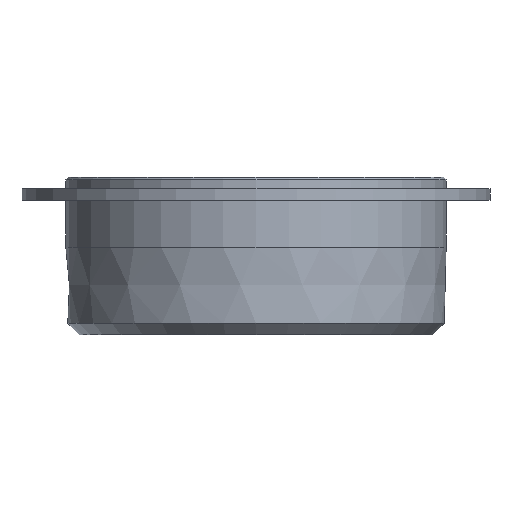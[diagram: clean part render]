
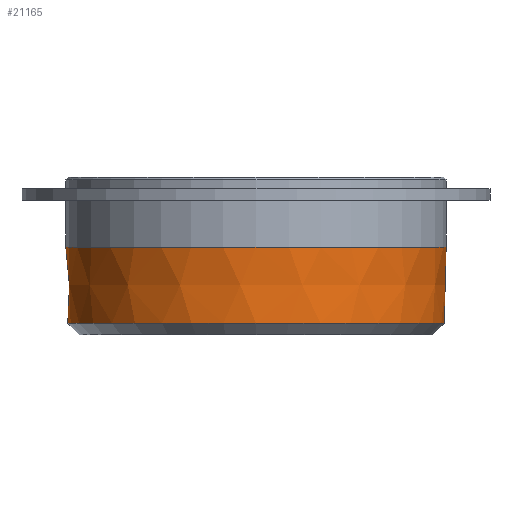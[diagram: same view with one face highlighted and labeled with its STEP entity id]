
A CAD part, front view. The second image highlights one B-rep face of the part: STEP entity #21165.
In plain terms, the highlighted conical face has half-angle 1.432 degrees and reference radius 32.125 mm.
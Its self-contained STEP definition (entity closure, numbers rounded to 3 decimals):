
#2234=CIRCLE('',#21914,32.5);
#2236=CIRCLE('',#21920,32.175);
#2357=CONICAL_SURFACE('',#21919,32.125,0.025);
#3928=VERTEX_POINT('',#35443);
#3957=VERTEX_POINT('',#35724);
#10239=EDGE_CURVE('',#3928,#3928,#2234,.T.);
#10295=EDGE_CURVE('',#3957,#3957,#2236,.T.);
#15779=ORIENTED_EDGE('',*,*,#10239,.T.);
#15780=ORIENTED_EDGE('',*,*,#10295,.F.);
#18640=EDGE_LOOP('',(#15779));
#18641=EDGE_LOOP('',(#15780));
#19941=FACE_BOUND('',#18640,.T.);
#19942=FACE_BOUND('',#18641,.T.);
#21165=ADVANCED_FACE('',(#19941,#19942),#2357,.T.);
#21914=AXIS2_PLACEMENT_3D('',#35442,#23927,#23928);
#21919=AXIS2_PLACEMENT_3D('',#35722,#23964,#23965);
#21920=AXIS2_PLACEMENT_3D('',#35723,#23966,#23967);
#23927=DIRECTION('',(0.,0.,-1.));
#23928=DIRECTION('',(-32.5,0.,0.));
#23964=DIRECTION('',(0.,0.,1.));
#23965=DIRECTION('',(-32.125,0.,0.));
#23966=DIRECTION('',(0.,0.,-1.));
#23967=DIRECTION('',(-32.175,0.,0.));
#35442=CARTESIAN_POINT('',(1.538,0.,15.));
#35443=CARTESIAN_POINT('',(34.038,0.,15.));
#35722=CARTESIAN_POINT('',(1.538,0.,0.));
#35723=CARTESIAN_POINT('',(1.538,0.,1.999));
#35724=CARTESIAN_POINT('',(33.713,0.,1.999));
